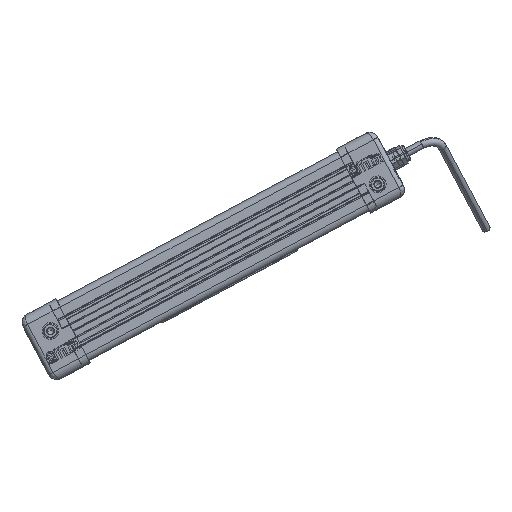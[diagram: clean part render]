
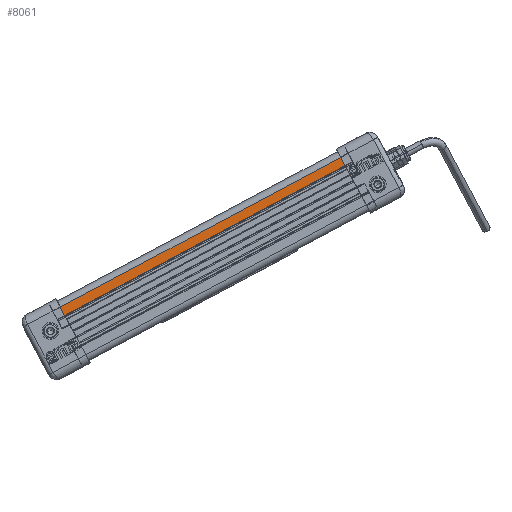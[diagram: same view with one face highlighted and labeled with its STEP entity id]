
A CAD part, front view. The second image highlights one B-rep face of the part: STEP entity #8061.
In plain terms, the highlighted planar face has unit normal (0, -1, 0) as drawn and (-1, 0, 0) by its records, which use the part's own axes.
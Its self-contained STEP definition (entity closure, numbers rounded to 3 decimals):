
#206 = DIRECTION ( 'NONE',  ( 0., 0., -1. ) ) ;
#2170 = LINE ( 'NONE', #51717, #24283 ) ;
#2926 = PLANE ( 'NONE',  #47228 ) ;
#3208 = DIRECTION ( 'NONE',  ( 0., 1., 0. ) ) ;
#4523 = ORIENTED_EDGE ( 'NONE', *, *, #45006, .F. ) ;
#4579 = LINE ( 'NONE', #49461, #36265 ) ;
#6343 = DIRECTION ( 'NONE',  ( 0., -1., 0. ) ) ;
#8061 = ADVANCED_FACE ( 'NONE', ( #56869 ), #2926, .F. ) ;
#13091 = VECTOR ( 'NONE', #6343, 1000. ) ;
#15739 = CARTESIAN_POINT ( 'NONE',  ( -9., 10.5, 0. ) ) ;
#17260 = EDGE_CURVE ( 'NONE', #17592, #18584, #2170, .T. ) ;
#17592 = VERTEX_POINT ( 'NONE', #26820 ) ;
#18584 = VERTEX_POINT ( 'NONE', #15739 ) ;
#19418 = CARTESIAN_POINT ( 'NONE',  ( -9., 10.5, 199. ) ) ;
#20032 = EDGE_LOOP ( 'NONE', ( #25920, #22507, #4523, #29156 ) ) ;
#20048 = VERTEX_POINT ( 'NONE', #35809 ) ;
#22507 = ORIENTED_EDGE ( 'NONE', *, *, #41727, .F. ) ;
#23210 = VECTOR ( 'NONE', #55007, 1000. ) ;
#23253 = LINE ( 'NONE', #19418, #23210 ) ;
#23643 = VERTEX_POINT ( 'NONE', #28475 ) ;
#24283 = VECTOR ( 'NONE', #29624, 1000. ) ;
#25920 = ORIENTED_EDGE ( 'NONE', *, *, #17260, .T. ) ;
#26820 = CARTESIAN_POINT ( 'NONE',  ( -9., 16., 0. ) ) ;
#28475 = CARTESIAN_POINT ( 'NONE',  ( -9., 16., 199. ) ) ;
#29156 = ORIENTED_EDGE ( 'NONE', *, *, #57499, .T. ) ;
#29624 = DIRECTION ( 'NONE',  ( 0., -1., 0. ) ) ;
#33200 = CARTESIAN_POINT ( 'NONE',  ( -9., 16., 199. ) ) ;
#35809 = CARTESIAN_POINT ( 'NONE',  ( -9., 10.5, 199. ) ) ;
#36265 = VECTOR ( 'NONE', #206, 1000. ) ;
#37600 = LINE ( 'NONE', #33200, #13091 ) ;
#41727 = EDGE_CURVE ( 'NONE', #20048, #18584, #23253, .T. ) ;
#45006 = EDGE_CURVE ( 'NONE', #23643, #20048, #37600, .T. ) ;
#47228 = AXIS2_PLACEMENT_3D ( 'NONE', #52180, #47512, #3208 ) ;
#47512 = DIRECTION ( 'NONE',  ( 1., 0., 0. ) ) ;
#49461 = CARTESIAN_POINT ( 'NONE',  ( -9., 16., 199. ) ) ;
#51717 = CARTESIAN_POINT ( 'NONE',  ( -9., 16., 0. ) ) ;
#52180 = CARTESIAN_POINT ( 'NONE',  ( -9., 16., 199. ) ) ;
#55007 = DIRECTION ( 'NONE',  ( 0., 0., -1. ) ) ;
#56869 = FACE_OUTER_BOUND ( 'NONE', #20032, .T. ) ;
#57499 = EDGE_CURVE ( 'NONE', #23643, #17592, #4579, .T. ) ;
